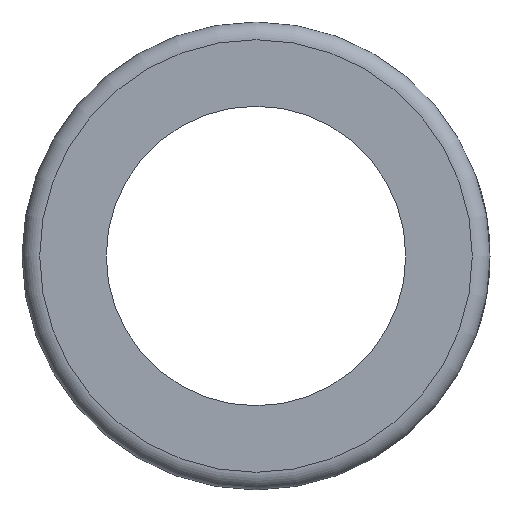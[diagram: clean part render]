
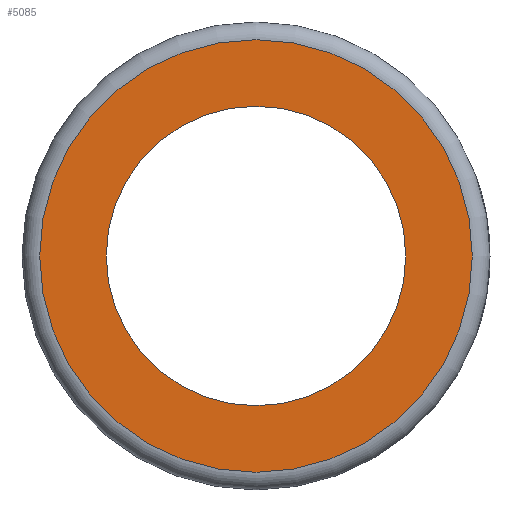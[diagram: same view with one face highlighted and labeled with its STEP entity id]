
A CAD part, left-side view. The second image highlights one B-rep face of the part: STEP entity #5085.
In plain terms, the highlighted planar face has unit normal (-1, 0, 0).
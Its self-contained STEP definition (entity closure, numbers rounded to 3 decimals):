
#121=PLANE('',#5483);
#351=CIRCLE('',#5484,18.344);
#352=CIRCLE('',#5485,12.7);
#1495=ORIENTED_EDGE('',*,*,#3027,.T.);
#1496=ORIENTED_EDGE('',*,*,#3028,.T.);
#3027=EDGE_CURVE('',#3793,#3793,#351,.F.);
#3028=EDGE_CURVE('',#3794,#3794,#352,.T.);
#3793=VERTEX_POINT('',#8041);
#3794=VERTEX_POINT('',#8043);
#4318=EDGE_LOOP('',(#1495));
#4319=EDGE_LOOP('',(#1496));
#4695=FACE_BOUND('',#4318,.T.);
#4696=FACE_BOUND('',#4319,.T.);
#5085=ADVANCED_FACE('',(#4695,#4696),#121,.F.);
#5483=AXIS2_PLACEMENT_3D('',#8039,#6009,#6010);
#5484=AXIS2_PLACEMENT_3D('',#8040,#6011,#6012);
#5485=AXIS2_PLACEMENT_3D('',#8042,#6013,#6014);
#6009=DIRECTION('',(1.,0.,0.));
#6010=DIRECTION('',(0.,0.,-1.));
#6011=DIRECTION('',(1.,0.,0.));
#6012=DIRECTION('',(0.,0.,-1.));
#6013=DIRECTION('',(1.,0.,0.));
#6014=DIRECTION('',(0.,0.,-1.));
#8039=CARTESIAN_POINT('',(-28.575,0.,0.));
#8040=CARTESIAN_POINT('',(-28.575,0.,0.));
#8041=CARTESIAN_POINT('',(-28.575,0.,-18.344));
#8042=CARTESIAN_POINT('',(-28.575,0.,0.));
#8043=CARTESIAN_POINT('',(-28.575,0.,-12.7));
